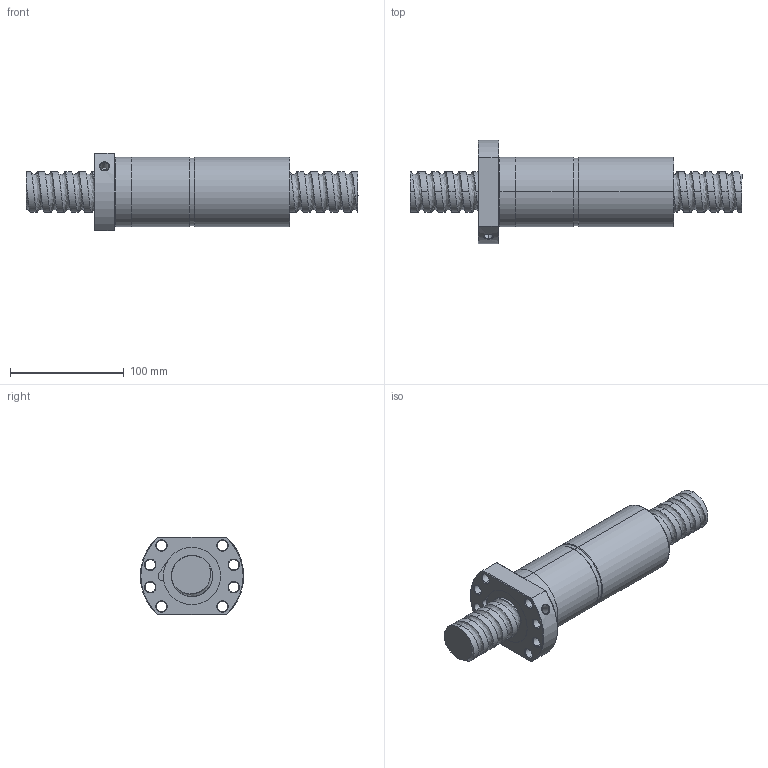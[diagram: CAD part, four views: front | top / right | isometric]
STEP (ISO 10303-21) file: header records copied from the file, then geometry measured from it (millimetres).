
FILE_DESCRIPTION (( 'STEP AP214' ), '1' );
FILE_NAME ('FDDC03612T5-F-C.STEP', '2010-07-06T05:21:54', ( 'XPAUTO' ), ( 'XPAUTO' ), 'SwSTEP 2.0', 'SolidWorks 2007', '' );
FILE_SCHEMA (( 'AUTOMOTIVE_DESIGN' ));
Length unit declared in the file: millimetre
Products named in the file (3): FDDC03612T5-F-C; FDDC03612T5-F-C.sldasm-Part-2_預設; FDDC03612T5-F-C.sldasm-Part-1_預設
Assembly tree (2 placements, depth 2):
  FDDC03612T5-F-C
    FDDC03612T5-F-C.sldasm-Part-2_預設
    FDDC03612T5-F-C.sldasm-Part-1_預設
Bounding box: 292 x 91 x 68 mm (x, y, z)
Volume: 627067.5 mm3; surface area: 106592.2 mm2
Topology: 2 solids, 2 shells, 163 faces, 407 edges, 253 vertices
Faces by surface type: cylinder 94, cone 32, plane 22, torus 10, bspline 5
Entity records: 46221 total; most frequent: CARTESIAN_POINT 42375, ORIENTED_EDGE 814, DIRECTION 743, EDGE_CURVE 407, AXIS2_PLACEMENT_3D 300, VERTEX_POINT 253, EDGE_LOOP 188, FACE_OUTER_BOUND 163
